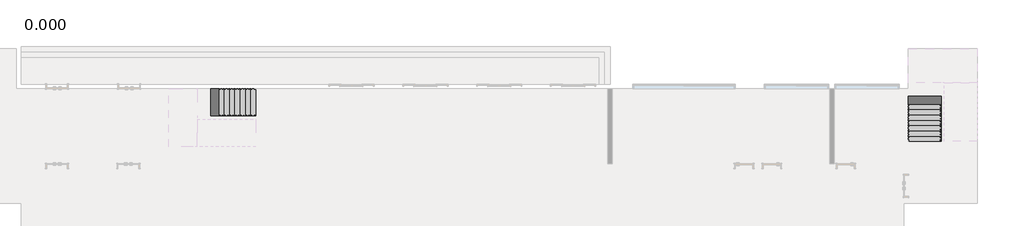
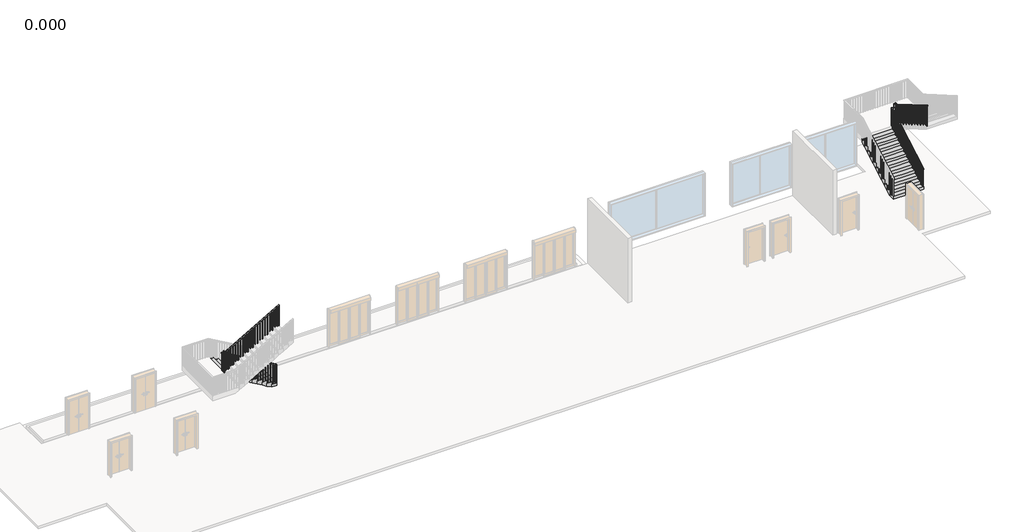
# One storey, part 3 of 4: 2 railings, 2 stair flights.
"""IFC4 building model written with IfcOpenShell, lengths in millimetres."""

from ifc_helpers import new_model, si_unit, frame, origin, place, context, project, spatial, polyline, outline, extrude, faceted_brep, element, save

model = new_model("IFC4")

# Units and contexts
model_context = context("Model", 3, world=origin())
ifc_project = project(units=[si_unit("LENGTHUNIT", "METRE", prefix="MILLI")], contexts=[model_context])

# Site, building, storey
site = spatial("IfcSite", under=ifc_project)
building = spatial("IfcBuilding", under=site)
storey = spatial("IfcBuildingStorey", under=building, Name="0.000", Elevation=0.0)

# Railings
placement = place(None, origin())
element("IfcRailing", 1, ObjectType="1100mm", at=placement, inside=storey, context=model_context, shape_type="SolidModel", body=[
    faceted_brep([(8832.9890344, 3957.0095817, 1262.5), (8832.9890344, 3957.0095817, 1204.6896546), (8832.9890344, 4007.0095817, 1204.6896546), (8832.9890344, 4007.0095817, 1262.5), (5827.5890344, 3957.0095817, 3006.7053571), (5777.5890344, 3957.0095817, 2977.9128689), (5777.5890344, 4007.0095817, 2977.9128689), (5827.5890344, 4007.0095817, 3006.7053571), (5827.5890344, 3957.0095817, 3050.0), (5777.5890344, 3957.0095817, 3000.0), (5777.5890344, 4007.0095817, 3000.0), (5827.5890344, 4007.0095817, 3050.0), (5752.5890344, 3957.0095817, 3050.0), (5752.5890344, 3957.0095817, 3000.0), (5702.5890344, 4007.0095817, 3000.0), (5702.5890344, 4007.0095817, 3050.0), (5752.5890344, 3882.0095817, 3050.0), (5752.5890344, 3882.0095817, 3000.0), (5702.5890344, 3882.0095817, 3000.0), (5702.5890344, 3882.0095817, 3050.0), (5752.5890344, 3851.2095817, 3050.0), (5752.5890344, 3801.2095817, 3000.0), (5702.5890344, 3801.2095817, 3000.0), (5702.5890344, 3851.2095817, 3050.0), (5752.5890344, 3851.2095817, 3255.7946429), (5752.5890344, 3801.2095817, 3205.7946429), (5702.5890344, 3801.2095817, 3205.7946429), (5702.5890344, 3851.2095817, 3255.7946429), (5752.5890344, 3776.2095817, 3255.7946429), (5752.5890344, 3776.2095817, 3205.7946429), (5702.5890344, 3726.2095817, 3205.7946429), (5702.5890344, 3726.2095817, 3255.7946429), (5827.5890344, 3776.2095817, 3255.7946429), (5841.0468602, 3776.2095817, 3205.7946429), (5841.0468602, 3726.2095817, 3205.7946429), (5827.5890344, 3726.2095817, 3255.7946429), (8832.9890344, 3776.2095817, 5000.0), (8832.9890344, 3726.2095817, 5000.0), (8832.9890344, 3726.2095817, 4942.1896546), (8832.9890344, 3776.2095817, 4942.1896546)], [[[0, 1, 2, 3]], [[1, 0, 4, 5]], [[2, 1, 5, 6]], [[3, 2, 6, 7]], [[0, 3, 7, 4]], [[5, 4, 8, 9]], [[6, 5, 9, 10]], [[7, 6, 10, 11]], [[4, 7, 11, 8]], [[9, 8, 12, 13]], [[10, 9, 13, 14]], [[11, 10, 14, 15]], [[8, 11, 15, 12]], [[13, 12, 16, 17]], [[14, 13, 17, 18]], [[15, 14, 18, 19]], [[12, 15, 19, 16]], [[17, 16, 20, 21]], [[18, 17, 21, 22]], [[19, 18, 22, 23]], [[16, 19, 23, 20]], [[21, 20, 24, 25]], [[22, 21, 25, 26]], [[23, 22, 26, 27]], [[20, 23, 27, 24]], [[25, 24, 28, 29]], [[26, 25, 29, 30]], [[27, 26, 30, 31]], [[24, 27, 31, 28]], [[29, 28, 32, 33]], [[30, 29, 33, 34]], [[31, 30, 34, 35]], [[28, 31, 35, 32]], [[36, 37, 38, 39]], [[33, 32, 36, 39]], [[34, 33, 39, 38]], [[35, 34, 38, 37]], [[32, 35, 37, 36]]]),
    extrude(outline(polyline([(3737.5, 8725.0890344), (3737.5, 8750.0890344), (4894.0780475, 8750.0890344), (4879.5691189, 8725.0890344), (3737.5, 8725.0890344)])), frame((0.0, 3738.7095817, 0.0), z_axis=(0.0, 1.0, 0.0), x_axis=(0.0, 0.0, 1.0)), (0.0, 0.0, 1.0), 25.0),
    extrude(outline(polyline([(3737.5, 8585.0890344), (3737.5, 8610.0890344), (4812.8280475, 8610.0890344), (4798.3191189, 8585.0890344), (3737.5, 8585.0890344)])), frame((0.0, 3738.7095817, 0.0), z_axis=(0.0, 1.0, 0.0), x_axis=(0.0, 0.0, 1.0)), (0.0, 0.0, 1.0), 25.0),
    extrude(outline(polyline([(3575.0, 8445.0890344), (3575.0, 8470.0890344), (4731.5780475, 8470.0890344), (4717.0691189, 8445.0890344), (3575.0, 8445.0890344)])), frame((0.0, 3738.7095817, 0.0), z_axis=(0.0, 1.0, 0.0), x_axis=(0.0, 0.0, 1.0)), (0.0, 0.0, 1.0), 25.0),
    extrude(outline(polyline([(3575.0, 8305.0890344), (3575.0, 8330.0890344), (4650.3280475, 8330.0890344), (4635.8191189, 8305.0890344), (3575.0, 8305.0890344)])), frame((0.0, 3738.7095817, 0.0), z_axis=(0.0, 1.0, 0.0), x_axis=(0.0, 0.0, 1.0)), (0.0, 0.0, 1.0), 25.0),
    extrude(outline(polyline([(3412.5, 8165.0890344), (3412.5, 8190.0890344), (4569.0780475, 8190.0890344), (4554.5691189, 8165.0890344), (3412.5, 8165.0890344)])), frame((0.0, 3738.7095817, 0.0), z_axis=(0.0, 1.0, 0.0), x_axis=(0.0, 0.0, 1.0)), (0.0, 0.0, 1.0), 25.0),
    extrude(outline(polyline([(3412.5, 8025.0890344), (3412.5, 8050.0890344), (4487.8280475, 8050.0890344), (4473.3191189, 8025.0890344), (3412.5, 8025.0890344)])), frame((0.0, 3738.7095817, 0.0), z_axis=(0.0, 1.0, 0.0), x_axis=(0.0, 0.0, 1.0)), (0.0, 0.0, 1.0), 25.0),
    extrude(outline(polyline([(3250.0, 7885.0890344), (3250.0, 7910.0890344), (4406.5780475, 7910.0890344), (4392.0691189, 7885.0890344), (3250.0, 7885.0890344)])), frame((0.0, 3738.7095817, 0.0), z_axis=(0.0, 1.0, 0.0), x_axis=(0.0, 0.0, 1.0)), (0.0, 0.0, 1.0), 25.0),
    extrude(outline(polyline([(3250.0, 7745.0890344), (3250.0, 7770.0890344), (4325.3280475, 7770.0890344), (4310.8191189, 7745.0890344), (3250.0, 7745.0890344)])), frame((0.0, 3738.7095817, 0.0), z_axis=(0.0, 1.0, 0.0), x_axis=(0.0, 0.0, 1.0)), (0.0, 0.0, 1.0), 25.0),
    extrude(outline(polyline([(3087.5, 7605.0890344), (3087.5, 7630.0890344), (4244.0780475, 7630.0890344), (4229.5691189, 7605.0890344), (3087.5, 7605.0890344)])), frame((0.0, 3738.7095817, 0.0), z_axis=(0.0, 1.0, 0.0), x_axis=(0.0, 0.0, 1.0)), (0.0, 0.0, 1.0), 25.0),
    extrude(outline(polyline([(3087.5, 7465.0890344), (3087.5, 7490.0890344), (4162.8280475, 7490.0890344), (4148.3191189, 7465.0890344), (3087.5, 7465.0890344)])), frame((0.0, 3738.7095817, 0.0), z_axis=(0.0, 1.0, 0.0), x_axis=(0.0, 0.0, 1.0)), (0.0, 0.0, 1.0), 25.0),
    extrude(outline(polyline([(2925.0, 7325.0890344), (2925.0, 7350.0890344), (4081.5780475, 7350.0890344), (4067.0691189, 7325.0890344), (2925.0, 7325.0890344)])), frame((0.0, 3738.7095817, 0.0), z_axis=(0.0, 1.0, 0.0), x_axis=(0.0, 0.0, 1.0)), (0.0, 0.0, 1.0), 25.0),
    extrude(outline(polyline([(2925.0, 7185.0890344), (2925.0, 7210.0890344), (4000.3280475, 7210.0890344), (3985.8191189, 7185.0890344), (2925.0, 7185.0890344)])), frame((0.0, 3738.7095817, 0.0), z_axis=(0.0, 1.0, 0.0), x_axis=(0.0, 0.0, 1.0)), (0.0, 0.0, 1.0), 25.0),
    extrude(outline(polyline([(2762.5, 7045.0890344), (2762.5, 7070.0890344), (3919.0780475, 7070.0890344), (3904.5691189, 7045.0890344), (2762.5, 7045.0890344)])), frame((0.0, 3738.7095817, 0.0), z_axis=(0.0, 1.0, 0.0), x_axis=(0.0, 0.0, 1.0)), (0.0, 0.0, 1.0), 25.0),
    extrude(outline(polyline([(2762.5, 6905.0890344), (2762.5, 6930.0890344), (3837.8280475, 6930.0890344), (3823.3191189, 6905.0890344), (2762.5, 6905.0890344)])), frame((0.0, 3738.7095817, 0.0), z_axis=(0.0, 1.0, 0.0), x_axis=(0.0, 0.0, 1.0)), (0.0, 0.0, 1.0), 25.0),
    extrude(outline(polyline([(2600.0, 6765.0890344), (2600.0, 6790.0890344), (3756.5780475, 6790.0890344), (3742.0691189, 6765.0890344), (2600.0, 6765.0890344)])), frame((0.0, 3738.7095817, 0.0), z_axis=(0.0, 1.0, 0.0), x_axis=(0.0, 0.0, 1.0)), (0.0, 0.0, 1.0), 25.0),
    extrude(outline(polyline([(2600.0, 6625.0890344), (2600.0, 6650.0890344), (3675.3280475, 6650.0890344), (3660.8191189, 6625.0890344), (2600.0, 6625.0890344)])), frame((0.0, 3738.7095817, 0.0), z_axis=(0.0, 1.0, 0.0), x_axis=(0.0, 0.0, 1.0)), (0.0, 0.0, 1.0), 25.0),
    extrude(outline(polyline([(2437.5, 6485.0890344), (2437.5, 6510.0890344), (3594.0780475, 6510.0890344), (3579.5691189, 6485.0890344), (2437.5, 6485.0890344)])), frame((0.0, 3738.7095817, 0.0), z_axis=(0.0, 1.0, 0.0), x_axis=(0.0, 0.0, 1.0)), (0.0, 0.0, 1.0), 25.0),
    extrude(outline(polyline([(2437.5, 6345.0890344), (2437.5, 6370.0890344), (3512.8280475, 6370.0890344), (3498.3191189, 6345.0890344), (2437.5, 6345.0890344)])), frame((0.0, 3738.7095817, 0.0), z_axis=(0.0, 1.0, 0.0), x_axis=(0.0, 0.0, 1.0)), (0.0, 0.0, 1.0), 25.0),
    extrude(outline(polyline([(2275.0, 6205.0890344), (2275.0, 6230.0890344), (3431.5780475, 6230.0890344), (3417.0691189, 6205.0890344), (2275.0, 6205.0890344)])), frame((0.0, 3738.7095817, 0.0), z_axis=(0.0, 1.0, 0.0), x_axis=(0.0, 0.0, 1.0)), (0.0, 0.0, 1.0), 25.0),
    extrude(outline(polyline([(2275.0, 6065.0890344), (2275.0, 6090.0890344), (3350.3280475, 6090.0890344), (3335.8191189, 6065.0890344), (2275.0, 6065.0890344)])), frame((0.0, 3738.7095817, 0.0), z_axis=(0.0, 1.0, 0.0), x_axis=(0.0, 0.0, 1.0)), (0.0, 0.0, 1.0), 25.0),
    extrude(outline(polyline([(2112.5, 5925.0890344), (2112.5, 5950.0890344), (3269.0780475, 5950.0890344), (3254.5691189, 5925.0890344), (2112.5, 5925.0890344)])), frame((0.0, 3738.7095817, 0.0), z_axis=(0.0, 1.0, 0.0), x_axis=(0.0, 0.0, 1.0)), (0.0, 0.0, 1.0), 25.0),
    extrude(outline(polyline([(5785.0890344, 3763.7095817), (5810.0890344, 3763.7095817), (5810.0890344, 3738.7095817), (5785.0890344, 3738.7095817), (5785.0890344, 3763.7095817)])), frame((0.0, 0.0, 2112.5), z_axis=(0.0, 0.0, 1.0), x_axis=(1.0, 0.0, 0.0)), (0.0, 0.0, 1.0), 1093.2946429),
    extrude(outline(polyline([(5740.0890344, 3784.5095817), (5740.0890344, 3759.5095817), (5715.0890344, 3759.5095817), (5715.0890344, 3784.5095817), (5740.0890344, 3784.5095817)])), frame((0.0, 0.0, 1950.0), z_axis=(0.0, 0.0, 1.0), x_axis=(1.0, 0.0, 0.0)), (0.0, 0.0, 1.0), 1255.7946429),
    extrude(outline(polyline([(5740.0890344, 3924.5095817), (5740.0890344, 3899.5095817), (5715.0890344, 3899.5095817), (5715.0890344, 3924.5095817), (5740.0890344, 3924.5095817)])), frame((0.0, 0.0, 1950.0), z_axis=(0.0, 0.0, 1.0), x_axis=(1.0, 0.0, 0.0)), (0.0, 0.0, 1.0), 1050.0),
    extrude(outline(polyline([(5835.4890344, 3969.5095817), (5810.4890344, 3969.5095817), (5810.4890344, 3994.5095817), (5835.4890344, 3994.5095817), (5835.4890344, 3969.5095817)])), frame((0.0, 0.0, 1787.5), z_axis=(0.0, 0.0, 1.0), x_axis=(1.0, 0.0, 0.0)), (0.0, 0.0, 1.0), 1212.5),
    extrude(outline(polyline([(2863.0601903, 5975.4890344), (2877.5691189, 5950.4890344), (1787.5, 5950.4890344), (1787.5, 5975.4890344), (2863.0601903, 5975.4890344)])), frame((0.0, 3969.5095817, 0.0), z_axis=(0.0, 1.0, 0.0), x_axis=(0.0, 0.0, 1.0)), (0.0, 0.0, 1.0), 25.0),
    extrude(outline(polyline([(2781.8101903, 6115.4890344), (2796.3191189, 6090.4890344), (1625.0, 6090.4890344), (1625.0, 6115.4890344), (2781.8101903, 6115.4890344)])), frame((0.0, 3969.5095817, 0.0), z_axis=(0.0, 1.0, 0.0), x_axis=(0.0, 0.0, 1.0)), (0.0, 0.0, 1.0), 25.0),
    extrude(outline(polyline([(2700.5601903, 6255.4890344), (2715.0691189, 6230.4890344), (1625.0, 6230.4890344), (1625.0, 6255.4890344), (2700.5601903, 6255.4890344)])), frame((0.0, 3969.5095817, 0.0), z_axis=(0.0, 1.0, 0.0), x_axis=(0.0, 0.0, 1.0)), (0.0, 0.0, 1.0), 25.0),
    extrude(outline(polyline([(2619.3101903, 6395.4890344), (2633.8191189, 6370.4890344), (1462.5, 6370.4890344), (1462.5, 6395.4890344), (2619.3101903, 6395.4890344)])), frame((0.0, 3969.5095817, 0.0), z_axis=(0.0, 1.0, 0.0), x_axis=(0.0, 0.0, 1.0)), (0.0, 0.0, 1.0), 25.0),
    extrude(outline(polyline([(2538.0601903, 6535.4890344), (2552.5691189, 6510.4890344), (1462.5, 6510.4890344), (1462.5, 6535.4890344), (2538.0601903, 6535.4890344)])), frame((0.0, 3969.5095817, 0.0), z_axis=(0.0, 1.0, 0.0), x_axis=(0.0, 0.0, 1.0)), (0.0, 0.0, 1.0), 25.0),
    extrude(outline(polyline([(2456.8101903, 6675.4890344), (2471.3191189, 6650.4890344), (1300.0, 6650.4890344), (1300.0, 6675.4890344), (2456.8101903, 6675.4890344)])), frame((0.0, 3969.5095817, 0.0), z_axis=(0.0, 1.0, 0.0), x_axis=(0.0, 0.0, 1.0)), (0.0, 0.0, 1.0), 25.0),
    extrude(outline(polyline([(2375.5601903, 6815.4890344), (2390.0691189, 6790.4890344), (1300.0, 6790.4890344), (1300.0, 6815.4890344), (2375.5601903, 6815.4890344)])), frame((0.0, 3969.5095817, 0.0), z_axis=(0.0, 1.0, 0.0), x_axis=(0.0, 0.0, 1.0)), (0.0, 0.0, 1.0), 25.0),
    extrude(outline(polyline([(2294.3101903, 6955.4890344), (2308.8191189, 6930.4890344), (1137.5, 6930.4890344), (1137.5, 6955.4890344), (2294.3101903, 6955.4890344)])), frame((0.0, 3969.5095817, 0.0), z_axis=(0.0, 1.0, 0.0), x_axis=(0.0, 0.0, 1.0)), (0.0, 0.0, 1.0), 25.0),
    extrude(outline(polyline([(2213.0601903, 7095.4890344), (2227.5691189, 7070.4890344), (1137.5, 7070.4890344), (1137.5, 7095.4890344), (2213.0601903, 7095.4890344)])), frame((0.0, 3969.5095817, 0.0), z_axis=(0.0, 1.0, 0.0), x_axis=(0.0, 0.0, 1.0)), (0.0, 0.0, 1.0), 25.0),
    extrude(outline(polyline([(2131.8101903, 7235.4890344), (2146.3191189, 7210.4890344), (975.0, 7210.4890344), (975.0, 7235.4890344), (2131.8101903, 7235.4890344)])), frame((0.0, 3969.5095817, 0.0), z_axis=(0.0, 1.0, 0.0), x_axis=(0.0, 0.0, 1.0)), (0.0, 0.0, 1.0), 25.0),
    extrude(outline(polyline([(2050.5601903, 7375.4890344), (2065.0691189, 7350.4890344), (975.0, 7350.4890344), (975.0, 7375.4890344), (2050.5601903, 7375.4890344)])), frame((0.0, 3969.5095817, 0.0), z_axis=(0.0, 1.0, 0.0), x_axis=(0.0, 0.0, 1.0)), (0.0, 0.0, 1.0), 25.0),
    extrude(outline(polyline([(1969.3101903, 7515.4890344), (1983.8191189, 7490.4890344), (812.5, 7490.4890344), (812.5, 7515.4890344), (1969.3101903, 7515.4890344)])), frame((0.0, 3969.5095817, 0.0), z_axis=(0.0, 1.0, 0.0), x_axis=(0.0, 0.0, 1.0)), (0.0, 0.0, 1.0), 25.0),
    extrude(outline(polyline([(1888.0601903, 7655.4890344), (1902.5691189, 7630.4890344), (812.5, 7630.4890344), (812.5, 7655.4890344), (1888.0601903, 7655.4890344)])), frame((0.0, 3969.5095817, 0.0), z_axis=(0.0, 1.0, 0.0), x_axis=(0.0, 0.0, 1.0)), (0.0, 0.0, 1.0), 25.0),
    extrude(outline(polyline([(1806.8101903, 7795.4890344), (1821.3191189, 7770.4890344), (650.0, 7770.4890344), (650.0, 7795.4890344), (1806.8101903, 7795.4890344)])), frame((0.0, 3969.5095817, 0.0), z_axis=(0.0, 1.0, 0.0), x_axis=(0.0, 0.0, 1.0)), (0.0, 0.0, 1.0), 25.0),
    extrude(outline(polyline([(1725.5601903, 7935.4890344), (1740.0691189, 7910.4890344), (650.0, 7910.4890344), (650.0, 7935.4890344), (1725.5601903, 7935.4890344)])), frame((0.0, 3969.5095817, 0.0), z_axis=(0.0, 1.0, 0.0), x_axis=(0.0, 0.0, 1.0)), (0.0, 0.0, 1.0), 25.0),
    extrude(outline(polyline([(1644.3101903, 8075.4890344), (1658.8191189, 8050.4890344), (487.5, 8050.4890344), (487.5, 8075.4890344), (1644.3101903, 8075.4890344)])), frame((0.0, 3969.5095817, 0.0), z_axis=(0.0, 1.0, 0.0), x_axis=(0.0, 0.0, 1.0)), (0.0, 0.0, 1.0), 25.0),
    extrude(outline(polyline([(1563.0601903, 8215.4890344), (1577.5691189, 8190.4890344), (487.5, 8190.4890344), (487.5, 8215.4890344), (1563.0601903, 8215.4890344)])), frame((0.0, 3969.5095817, 0.0), z_axis=(0.0, 1.0, 0.0), x_axis=(0.0, 0.0, 1.0)), (0.0, 0.0, 1.0), 25.0),
    extrude(outline(polyline([(1481.8101903, 8355.4890344), (1496.3191189, 8330.4890344), (325.0, 8330.4890344), (325.0, 8355.4890344), (1481.8101903, 8355.4890344)])), frame((0.0, 3969.5095817, 0.0), z_axis=(0.0, 1.0, 0.0), x_axis=(0.0, 0.0, 1.0)), (0.0, 0.0, 1.0), 25.0),
    extrude(outline(polyline([(1400.5601903, 8495.4890344), (1415.0691189, 8470.4890344), (325.0, 8470.4890344), (325.0, 8495.4890344), (1400.5601903, 8495.4890344)])), frame((0.0, 3969.5095817, 0.0), z_axis=(0.0, 1.0, 0.0), x_axis=(0.0, 0.0, 1.0)), (0.0, 0.0, 1.0), 25.0),
    extrude(outline(polyline([(1319.3101903, 8635.4890344), (1333.8191189, 8610.4890344), (162.5, 8610.4890344), (162.5, 8635.4890344), (1319.3101903, 8635.4890344)])), frame((0.0, 3969.5095817, 0.0), z_axis=(0.0, 1.0, 0.0), x_axis=(0.0, 0.0, 1.0)), (0.0, 0.0, 1.0), 25.0),
    extrude(outline(polyline([(1238.0601903, 8775.4890344), (1252.5691189, 8750.4890344), (162.5, 8750.4890344), (162.5, 8775.4890344), (1238.0601903, 8775.4890344)])), frame((0.0, 3969.5095817, 0.0), z_axis=(0.0, 1.0, 0.0), x_axis=(0.0, 0.0, 1.0)), (0.0, 0.0, 1.0), 25.0),
    extrude(outline(polyline([(5740.0890344, 3763.7095817), (5740.0890344, 3738.7095817), (5715.0890344, 3738.7095817), (5715.0890344, 3763.7095817), (5740.0890344, 3763.7095817)])), frame((0.0, 0.0, 1950.0), z_axis=(0.0, 0.0, 1.0), x_axis=(1.0, 0.0, 0.0)), (0.0, 0.0, 1.0), 1255.7946429),
    extrude(outline(polyline([(5740.0890344, 3969.5095817), (5715.0890344, 3969.5095817), (5715.0890344, 3994.5095817), (5740.0890344, 3994.5095817), (5740.0890344, 3969.5095817)])), frame((0.0, 0.0, 1950.0), z_axis=(0.0, 0.0, 1.0), x_axis=(1.0, 0.0, 0.0)), (0.0, 0.0, 1.0), 1050.0),
    extrude(outline(polyline([(3737.5, 8807.9890344), (3737.5, 8832.9890344), (4942.1896546, 8832.9890344), (4927.680726, 8807.9890344), (3737.5, 8807.9890344)])), frame((0.0, 3738.7095817, 0.0), z_axis=(0.0, 1.0, 0.0), x_axis=(0.0, 0.0, 1.0)), (0.0, 0.0, 1.0), 25.0),
    extrude(outline(polyline([(1204.6896546, 8832.9890344), (1219.1985832, 8807.9890344), (162.5, 8807.9890344), (162.5, 8832.9890344), (1204.6896546, 8832.9890344)])), frame((0.0, 3969.5095817, 0.0), z_axis=(0.0, 1.0, 0.0), x_axis=(0.0, 0.0, 1.0)), (0.0, 0.0, 1.0), 25.0),
])
element("IfcRailing", 2, ObjectType="1100mm", at=placement, inside=storey, context=model_context, shape_type="SolidModel", body=[
    faceted_brep([(44942.5890344, 2616.6095817, 1262.5), (44942.5890344, 2616.6095817, 1204.6896546), (44992.5890344, 2616.6095817, 1204.6896546), (44992.5890344, 2616.6095817, 1262.5), (44942.5890344, 5622.0095817, 3006.7053571), (44942.5890344, 5672.0095817, 2977.9128689), (44992.5890344, 5672.0095817, 2977.9128689), (44992.5890344, 5622.0095817, 3006.7053571), (44942.5890344, 5622.0095817, 3050.0), (44942.5890344, 5672.0095817, 3000.0), (44992.5890344, 5672.0095817, 3000.0), (44992.5890344, 5622.0095817, 3050.0), (44942.5890344, 5747.0095817, 3050.0), (44942.5890344, 5747.0095817, 3000.0), (44992.5890344, 5697.0095817, 3000.0), (44992.5890344, 5697.0095817, 3050.0), (45067.5890344, 5747.0095817, 3050.0), (45067.5890344, 5747.0095817, 3000.0), (45067.5890344, 5697.0095817, 3000.0), (45067.5890344, 5697.0095817, 3050.0), (45098.3890344, 5747.0095817, 3050.0), (45148.3890344, 5747.0095817, 3000.0), (45148.3890344, 5697.0095817, 3000.0), (45098.3890344, 5697.0095817, 3050.0), (45098.3890344, 5747.0095817, 3255.7946429), (45148.3890344, 5747.0095817, 3205.7946429), (45148.3890344, 5697.0095817, 3205.7946429), (45098.3890344, 5697.0095817, 3255.7946429), (45223.3890344, 5747.0095817, 3255.7946429), (45223.3890344, 5747.0095817, 3205.7946429), (45173.3890344, 5697.0095817, 3205.7946429), (45173.3890344, 5697.0095817, 3255.7946429), (45223.3890344, 5622.0095817, 3255.7946429), (45223.3890344, 5608.5517559, 3205.7946429), (45173.3890344, 5608.5517559, 3205.7946429), (45173.3890344, 5622.0095817, 3255.7946429), (45223.3890344, 2616.6095817, 5000.0), (45173.3890344, 2616.6095817, 5000.0), (45173.3890344, 2616.6095817, 4942.1896546), (45223.3890344, 2616.6095817, 4942.1896546)], [[[0, 1, 2, 3]], [[1, 0, 4, 5]], [[2, 1, 5, 6]], [[3, 2, 6, 7]], [[0, 3, 7, 4]], [[5, 4, 8, 9]], [[6, 5, 9, 10]], [[7, 6, 10, 11]], [[4, 7, 11, 8]], [[9, 8, 12, 13]], [[10, 9, 13, 14]], [[11, 10, 14, 15]], [[8, 11, 15, 12]], [[13, 12, 16, 17]], [[14, 13, 17, 18]], [[15, 14, 18, 19]], [[12, 15, 19, 16]], [[17, 16, 20, 21]], [[18, 17, 21, 22]], [[19, 18, 22, 23]], [[16, 19, 23, 20]], [[21, 20, 24, 25]], [[22, 21, 25, 26]], [[23, 22, 26, 27]], [[20, 23, 27, 24]], [[25, 24, 28, 29]], [[26, 25, 29, 30]], [[27, 26, 30, 31]], [[24, 27, 31, 28]], [[29, 28, 32, 33]], [[30, 29, 33, 34]], [[31, 30, 34, 35]], [[28, 31, 35, 32]], [[36, 37, 38, 39]], [[33, 32, 36, 39]], [[34, 33, 39, 38]], [[35, 34, 38, 37]], [[32, 35, 37, 36]]]),
    extrude(outline(polyline([(2724.5095817, 4879.5691189), (2724.5095817, 3737.5), (2699.5095817, 3737.5), (2699.5095817, 4894.0780475), (2724.5095817, 4879.5691189)])), frame((45185.8890344, 0.0, 0.0), z_axis=(1.0, 0.0, 0.0), x_axis=(0.0, 1.0, 0.0)), (0.0, 0.0, 1.0), 25.0),
    extrude(outline(polyline([(2864.5095817, 4798.3191189), (2864.5095817, 3737.5), (2839.5095817, 3737.5), (2839.5095817, 4812.8280475), (2864.5095817, 4798.3191189)])), frame((45185.8890344, 0.0, 0.0), z_axis=(1.0, 0.0, 0.0), x_axis=(0.0, 1.0, 0.0)), (0.0, 0.0, 1.0), 25.0),
    extrude(outline(polyline([(3004.5095817, 4717.0691189), (3004.5095817, 3575.0), (2979.5095817, 3575.0), (2979.5095817, 4731.5780475), (3004.5095817, 4717.0691189)])), frame((45185.8890344, 0.0, 0.0), z_axis=(1.0, 0.0, 0.0), x_axis=(0.0, 1.0, 0.0)), (0.0, 0.0, 1.0), 25.0),
    extrude(outline(polyline([(3144.5095817, 4635.8191189), (3144.5095817, 3575.0), (3119.5095817, 3575.0), (3119.5095817, 4650.3280475), (3144.5095817, 4635.8191189)])), frame((45185.8890344, 0.0, 0.0), z_axis=(1.0, 0.0, 0.0), x_axis=(0.0, 1.0, 0.0)), (0.0, 0.0, 1.0), 25.0),
    extrude(outline(polyline([(3284.5095817, 4554.5691189), (3284.5095817, 3412.5), (3259.5095817, 3412.5), (3259.5095817, 4569.0780475), (3284.5095817, 4554.5691189)])), frame((45185.8890344, 0.0, 0.0), z_axis=(1.0, 0.0, 0.0), x_axis=(0.0, 1.0, 0.0)), (0.0, 0.0, 1.0), 25.0),
    extrude(outline(polyline([(3424.5095817, 4473.3191189), (3424.5095817, 3412.5), (3399.5095817, 3412.5), (3399.5095817, 4487.8280475), (3424.5095817, 4473.3191189)])), frame((45185.8890344, 0.0, 0.0), z_axis=(1.0, 0.0, 0.0), x_axis=(0.0, 1.0, 0.0)), (0.0, 0.0, 1.0), 25.0),
    extrude(outline(polyline([(3564.5095817, 4392.0691189), (3564.5095817, 3250.0), (3539.5095817, 3250.0), (3539.5095817, 4406.5780475), (3564.5095817, 4392.0691189)])), frame((45185.8890344, 0.0, 0.0), z_axis=(1.0, 0.0, 0.0), x_axis=(0.0, 1.0, 0.0)), (0.0, 0.0, 1.0), 25.0),
    extrude(outline(polyline([(3704.5095817, 4310.8191189), (3704.5095817, 3250.0), (3679.5095817, 3250.0), (3679.5095817, 4325.3280475), (3704.5095817, 4310.8191189)])), frame((45185.8890344, 0.0, 0.0), z_axis=(1.0, 0.0, 0.0), x_axis=(0.0, 1.0, 0.0)), (0.0, 0.0, 1.0), 25.0),
    extrude(outline(polyline([(3844.5095817, 4229.5691189), (3844.5095817, 3087.5), (3819.5095817, 3087.5), (3819.5095817, 4244.0780475), (3844.5095817, 4229.5691189)])), frame((45185.8890344, 0.0, 0.0), z_axis=(1.0, 0.0, 0.0), x_axis=(0.0, 1.0, 0.0)), (0.0, 0.0, 1.0), 25.0),
    extrude(outline(polyline([(3984.5095817, 4148.3191189), (3984.5095817, 3087.5), (3959.5095817, 3087.5), (3959.5095817, 4162.8280475), (3984.5095817, 4148.3191189)])), frame((45185.8890344, 0.0, 0.0), z_axis=(1.0, 0.0, 0.0), x_axis=(0.0, 1.0, 0.0)), (0.0, 0.0, 1.0), 25.0),
    extrude(outline(polyline([(4124.5095817, 4067.0691189), (4124.5095817, 2925.0), (4099.5095817, 2925.0), (4099.5095817, 4081.5780475), (4124.5095817, 4067.0691189)])), frame((45185.8890344, 0.0, 0.0), z_axis=(1.0, 0.0, 0.0), x_axis=(0.0, 1.0, 0.0)), (0.0, 0.0, 1.0), 25.0),
    extrude(outline(polyline([(4264.5095817, 3985.8191189), (4264.5095817, 2925.0), (4239.5095817, 2925.0), (4239.5095817, 4000.3280475), (4264.5095817, 3985.8191189)])), frame((45185.8890344, 0.0, 0.0), z_axis=(1.0, 0.0, 0.0), x_axis=(0.0, 1.0, 0.0)), (0.0, 0.0, 1.0), 25.0),
    extrude(outline(polyline([(4404.5095817, 3904.5691189), (4404.5095817, 2762.5), (4379.5095817, 2762.5), (4379.5095817, 3919.0780475), (4404.5095817, 3904.5691189)])), frame((45185.8890344, 0.0, 0.0), z_axis=(1.0, 0.0, 0.0), x_axis=(0.0, 1.0, 0.0)), (0.0, 0.0, 1.0), 25.0),
    extrude(outline(polyline([(4544.5095817, 3823.3191189), (4544.5095817, 2762.5), (4519.5095817, 2762.5), (4519.5095817, 3837.8280475), (4544.5095817, 3823.3191189)])), frame((45185.8890344, 0.0, 0.0), z_axis=(1.0, 0.0, 0.0), x_axis=(0.0, 1.0, 0.0)), (0.0, 0.0, 1.0), 25.0),
    extrude(outline(polyline([(4684.5095817, 3742.0691189), (4684.5095817, 2600.0), (4659.5095817, 2600.0), (4659.5095817, 3756.5780475), (4684.5095817, 3742.0691189)])), frame((45185.8890344, 0.0, 0.0), z_axis=(1.0, 0.0, 0.0), x_axis=(0.0, 1.0, 0.0)), (0.0, 0.0, 1.0), 25.0),
    extrude(outline(polyline([(4824.5095817, 3660.8191189), (4824.5095817, 2600.0), (4799.5095817, 2600.0), (4799.5095817, 3675.3280475), (4824.5095817, 3660.8191189)])), frame((45185.8890344, 0.0, 0.0), z_axis=(1.0, 0.0, 0.0), x_axis=(0.0, 1.0, 0.0)), (0.0, 0.0, 1.0), 25.0),
    extrude(outline(polyline([(4964.5095817, 3579.5691189), (4964.5095817, 2437.5), (4939.5095817, 2437.5), (4939.5095817, 3594.0780475), (4964.5095817, 3579.5691189)])), frame((45185.8890344, 0.0, 0.0), z_axis=(1.0, 0.0, 0.0), x_axis=(0.0, 1.0, 0.0)), (0.0, 0.0, 1.0), 25.0),
    extrude(outline(polyline([(5104.5095817, 3498.3191189), (5104.5095817, 2437.5), (5079.5095817, 2437.5), (5079.5095817, 3512.8280475), (5104.5095817, 3498.3191189)])), frame((45185.8890344, 0.0, 0.0), z_axis=(1.0, 0.0, 0.0), x_axis=(0.0, 1.0, 0.0)), (0.0, 0.0, 1.0), 25.0),
    extrude(outline(polyline([(5244.5095817, 3417.0691189), (5244.5095817, 2275.0), (5219.5095817, 2275.0), (5219.5095817, 3431.5780475), (5244.5095817, 3417.0691189)])), frame((45185.8890344, 0.0, 0.0), z_axis=(1.0, 0.0, 0.0), x_axis=(0.0, 1.0, 0.0)), (0.0, 0.0, 1.0), 25.0),
    extrude(outline(polyline([(5384.5095817, 3335.8191189), (5384.5095817, 2275.0), (5359.5095817, 2275.0), (5359.5095817, 3350.3280475), (5384.5095817, 3335.8191189)])), frame((45185.8890344, 0.0, 0.0), z_axis=(1.0, 0.0, 0.0), x_axis=(0.0, 1.0, 0.0)), (0.0, 0.0, 1.0), 25.0),
    extrude(outline(polyline([(5524.5095817, 3254.5691189), (5524.5095817, 2112.5), (5499.5095817, 2112.5), (5499.5095817, 3269.0780475), (5524.5095817, 3254.5691189)])), frame((45185.8890344, 0.0, 0.0), z_axis=(1.0, 0.0, 0.0), x_axis=(0.0, 1.0, 0.0)), (0.0, 0.0, 1.0), 25.0),
    extrude(outline(polyline([(45185.8890344, 5664.5095817), (45210.8890344, 5664.5095817), (45210.8890344, 5639.5095817), (45185.8890344, 5639.5095817), (45185.8890344, 5664.5095817)])), frame((0.0, 0.0, 2112.5), z_axis=(0.0, 0.0, 1.0), x_axis=(1.0, 0.0, 0.0)), (0.0, 0.0, 1.0), 1093.2946429),
    extrude(outline(polyline([(45165.0890344, 5709.5095817), (45165.0890344, 5734.5095817), (45190.0890344, 5734.5095817), (45190.0890344, 5709.5095817), (45165.0890344, 5709.5095817)])), frame((0.0, 0.0, 1950.0), z_axis=(0.0, 0.0, 1.0), x_axis=(1.0, 0.0, 0.0)), (0.0, 0.0, 1.0), 1255.7946429),
    extrude(outline(polyline([(45025.0890344, 5709.5095817), (45025.0890344, 5734.5095817), (45050.0890344, 5734.5095817), (45050.0890344, 5709.5095817), (45025.0890344, 5709.5095817)])), frame((0.0, 0.0, 1950.0), z_axis=(0.0, 0.0, 1.0), x_axis=(1.0, 0.0, 0.0)), (0.0, 0.0, 1.0), 1050.0),
    extrude(outline(polyline([(44980.0890344, 5614.1095817), (44955.0890344, 5614.1095817), (44955.0890344, 5639.1095817), (44980.0890344, 5639.1095817), (44980.0890344, 5614.1095817)])), frame((0.0, 0.0, 1787.5), z_axis=(0.0, 0.0, 1.0), x_axis=(1.0, 0.0, 0.0)), (0.0, 0.0, 1.0), 1212.5),
    extrude(outline(polyline([(5474.1095817, 1787.5), (5474.1095817, 2863.0601903), (5499.1095817, 2877.5691189), (5499.1095817, 1787.5), (5474.1095817, 1787.5)])), frame((44955.0890344, 0.0, 0.0), z_axis=(1.0, 0.0, 0.0), x_axis=(0.0, 1.0, 0.0)), (0.0, 0.0, 1.0), 25.0),
    extrude(outline(polyline([(5334.1095817, 1625.0), (5334.1095817, 2781.8101903), (5359.1095817, 2796.3191189), (5359.1095817, 1625.0), (5334.1095817, 1625.0)])), frame((44955.0890344, 0.0, 0.0), z_axis=(1.0, 0.0, 0.0), x_axis=(0.0, 1.0, 0.0)), (0.0, 0.0, 1.0), 25.0),
    extrude(outline(polyline([(5194.1095817, 1625.0), (5194.1095817, 2700.5601903), (5219.1095817, 2715.0691189), (5219.1095817, 1625.0), (5194.1095817, 1625.0)])), frame((44955.0890344, 0.0, 0.0), z_axis=(1.0, 0.0, 0.0), x_axis=(0.0, 1.0, 0.0)), (0.0, 0.0, 1.0), 25.0),
    extrude(outline(polyline([(5054.1095817, 1462.5), (5054.1095817, 2619.3101903), (5079.1095817, 2633.8191189), (5079.1095817, 1462.5), (5054.1095817, 1462.5)])), frame((44955.0890344, 0.0, 0.0), z_axis=(1.0, 0.0, 0.0), x_axis=(0.0, 1.0, 0.0)), (0.0, 0.0, 1.0), 25.0),
    extrude(outline(polyline([(4914.1095817, 1462.5), (4914.1095817, 2538.0601903), (4939.1095817, 2552.5691189), (4939.1095817, 1462.5), (4914.1095817, 1462.5)])), frame((44955.0890344, 0.0, 0.0), z_axis=(1.0, 0.0, 0.0), x_axis=(0.0, 1.0, 0.0)), (0.0, 0.0, 1.0), 25.0),
    extrude(outline(polyline([(4774.1095817, 1300.0), (4774.1095817, 2456.8101903), (4799.1095817, 2471.3191189), (4799.1095817, 1300.0), (4774.1095817, 1300.0)])), frame((44955.0890344, 0.0, 0.0), z_axis=(1.0, 0.0, 0.0), x_axis=(0.0, 1.0, 0.0)), (0.0, 0.0, 1.0), 25.0),
    extrude(outline(polyline([(4634.1095817, 1300.0), (4634.1095817, 2375.5601903), (4659.1095817, 2390.0691189), (4659.1095817, 1300.0), (4634.1095817, 1300.0)])), frame((44955.0890344, 0.0, 0.0), z_axis=(1.0, 0.0, 0.0), x_axis=(0.0, 1.0, 0.0)), (0.0, 0.0, 1.0), 25.0),
    extrude(outline(polyline([(4494.1095817, 1137.5), (4494.1095817, 2294.3101903), (4519.1095817, 2308.8191189), (4519.1095817, 1137.5), (4494.1095817, 1137.5)])), frame((44955.0890344, 0.0, 0.0), z_axis=(1.0, 0.0, 0.0), x_axis=(0.0, 1.0, 0.0)), (0.0, 0.0, 1.0), 25.0),
    extrude(outline(polyline([(4354.1095817, 1137.5), (4354.1095817, 2213.0601903), (4379.1095817, 2227.5691189), (4379.1095817, 1137.5), (4354.1095817, 1137.5)])), frame((44955.0890344, 0.0, 0.0), z_axis=(1.0, 0.0, 0.0), x_axis=(0.0, 1.0, 0.0)), (0.0, 0.0, 1.0), 25.0),
    extrude(outline(polyline([(4214.1095817, 975.0), (4214.1095817, 2131.8101903), (4239.1095817, 2146.3191189), (4239.1095817, 975.0), (4214.1095817, 975.0)])), frame((44955.0890344, 0.0, 0.0), z_axis=(1.0, 0.0, 0.0), x_axis=(0.0, 1.0, 0.0)), (0.0, 0.0, 1.0), 25.0),
    extrude(outline(polyline([(4074.1095817, 975.0), (4074.1095817, 2050.5601903), (4099.1095817, 2065.0691189), (4099.1095817, 975.0), (4074.1095817, 975.0)])), frame((44955.0890344, 0.0, 0.0), z_axis=(1.0, 0.0, 0.0), x_axis=(0.0, 1.0, 0.0)), (0.0, 0.0, 1.0), 25.0),
    extrude(outline(polyline([(3934.1095817, 812.5), (3934.1095817, 1969.3101903), (3959.1095817, 1983.8191189), (3959.1095817, 812.5), (3934.1095817, 812.5)])), frame((44955.0890344, 0.0, 0.0), z_axis=(1.0, 0.0, 0.0), x_axis=(0.0, 1.0, 0.0)), (0.0, 0.0, 1.0), 25.0),
    extrude(outline(polyline([(3794.1095817, 812.5), (3794.1095817, 1888.0601903), (3819.1095817, 1902.5691189), (3819.1095817, 812.5), (3794.1095817, 812.5)])), frame((44955.0890344, 0.0, 0.0), z_axis=(1.0, 0.0, 0.0), x_axis=(0.0, 1.0, 0.0)), (0.0, 0.0, 1.0), 25.0),
    extrude(outline(polyline([(3654.1095817, 650.0), (3654.1095817, 1806.8101903), (3679.1095817, 1821.3191189), (3679.1095817, 650.0), (3654.1095817, 650.0)])), frame((44955.0890344, 0.0, 0.0), z_axis=(1.0, 0.0, 0.0), x_axis=(0.0, 1.0, 0.0)), (0.0, 0.0, 1.0), 25.0),
    extrude(outline(polyline([(3514.1095817, 650.0), (3514.1095817, 1725.5601903), (3539.1095817, 1740.0691189), (3539.1095817, 650.0), (3514.1095817, 650.0)])), frame((44955.0890344, 0.0, 0.0), z_axis=(1.0, 0.0, 0.0), x_axis=(0.0, 1.0, 0.0)), (0.0, 0.0, 1.0), 25.0),
    extrude(outline(polyline([(3374.1095817, 487.5), (3374.1095817, 1644.3101903), (3399.1095817, 1658.8191189), (3399.1095817, 487.5), (3374.1095817, 487.5)])), frame((44955.0890344, 0.0, 0.0), z_axis=(1.0, 0.0, 0.0), x_axis=(0.0, 1.0, 0.0)), (0.0, 0.0, 1.0), 25.0),
    extrude(outline(polyline([(3234.1095817, 487.5), (3234.1095817, 1563.0601903), (3259.1095817, 1577.5691189), (3259.1095817, 487.5), (3234.1095817, 487.5)])), frame((44955.0890344, 0.0, 0.0), z_axis=(1.0, 0.0, 0.0), x_axis=(0.0, 1.0, 0.0)), (0.0, 0.0, 1.0), 25.0),
    extrude(outline(polyline([(3094.1095817, 325.0), (3094.1095817, 1481.8101903), (3119.1095817, 1496.3191189), (3119.1095817, 325.0), (3094.1095817, 325.0)])), frame((44955.0890344, 0.0, 0.0), z_axis=(1.0, 0.0, 0.0), x_axis=(0.0, 1.0, 0.0)), (0.0, 0.0, 1.0), 25.0),
    extrude(outline(polyline([(2954.1095817, 325.0), (2954.1095817, 1400.5601903), (2979.1095817, 1415.0691189), (2979.1095817, 325.0), (2954.1095817, 325.0)])), frame((44955.0890344, 0.0, 0.0), z_axis=(1.0, 0.0, 0.0), x_axis=(0.0, 1.0, 0.0)), (0.0, 0.0, 1.0), 25.0),
    extrude(outline(polyline([(2814.1095817, 162.5), (2814.1095817, 1319.3101903), (2839.1095817, 1333.8191189), (2839.1095817, 162.5), (2814.1095817, 162.5)])), frame((44955.0890344, 0.0, 0.0), z_axis=(1.0, 0.0, 0.0), x_axis=(0.0, 1.0, 0.0)), (0.0, 0.0, 1.0), 25.0),
    extrude(outline(polyline([(2674.1095817, 162.5), (2674.1095817, 1238.0601903), (2699.1095817, 1252.5691189), (2699.1095817, 162.5), (2674.1095817, 162.5)])), frame((44955.0890344, 0.0, 0.0), z_axis=(1.0, 0.0, 0.0), x_axis=(0.0, 1.0, 0.0)), (0.0, 0.0, 1.0), 25.0),
    extrude(outline(polyline([(45185.8890344, 5709.5095817), (45185.8890344, 5734.5095817), (45210.8890344, 5734.5095817), (45210.8890344, 5709.5095817), (45185.8890344, 5709.5095817)])), frame((0.0, 0.0, 1950.0), z_axis=(0.0, 0.0, 1.0), x_axis=(1.0, 0.0, 0.0)), (0.0, 0.0, 1.0), 1255.7946429),
    extrude(outline(polyline([(44980.0890344, 5709.5095817), (44955.0890344, 5709.5095817), (44955.0890344, 5734.5095817), (44980.0890344, 5734.5095817), (44980.0890344, 5709.5095817)])), frame((0.0, 0.0, 1950.0), z_axis=(0.0, 0.0, 1.0), x_axis=(1.0, 0.0, 0.0)), (0.0, 0.0, 1.0), 1050.0),
    extrude(outline(polyline([(2641.6095817, 4927.680726), (2641.6095817, 3737.5), (2616.6095817, 3737.5), (2616.6095817, 4942.1896546), (2641.6095817, 4927.680726)])), frame((45185.8890344, 0.0, 0.0), z_axis=(1.0, 0.0, 0.0), x_axis=(0.0, 1.0, 0.0)), (0.0, 0.0, 1.0), 25.0),
    extrude(outline(polyline([(2616.6095817, 162.5), (2616.6095817, 1204.6896546), (2641.6095817, 1219.1985832), (2641.6095817, 162.5), (2616.6095817, 162.5)])), frame((44955.0890344, 0.0, 0.0), z_axis=(1.0, 0.0, 0.0), x_axis=(0.0, 1.0, 0.0)), (0.0, 0.0, 1.0), 25.0),
])

# Stair flights
element("IfcStairFlight", 3, ObjectType="150mm 结构深度", at=placement, inside=storey, context=model_context, shape_type="Brep", body=[
    faceted_brep([(8552.9890344, 3956.6095817, 162.5), (8832.9890344, 3956.6095817, 162.5), (8832.9890344, 5396.6095817, 162.5), (8552.9890344, 5396.6095817, 162.5), (8552.9890344, 3956.6095817, 0.0), (8832.9890344, 3956.6095817, 0.0), (8832.9890344, 5396.6095817, 0.0), (8552.9890344, 5396.6095817, 0.0), (8272.9890344, 3956.6095817, 325.0), (8552.9890344, 3956.6095817, 325.0), (8552.9890344, 5396.6095817, 325.0), (8272.9890344, 5396.6095817, 325.0), (8272.9890344, 3956.6095817, 151.5689639), (8534.1540182, 3956.6095817, 0.0), (8534.1540182, 5396.6095817, 0.0), (8272.9890344, 5396.6095817, 151.5689639), (7992.9890344, 3956.6095817, 487.5), (8272.9890344, 3956.6095817, 487.5), (8272.9890344, 5396.6095817, 487.5), (7992.9890344, 5396.6095817, 487.5), (7992.9890344, 3956.6095817, 314.0689639), (7992.9890344, 5396.6095817, 314.0689639), (7712.9890344, 3956.6095817, 650.0), (7992.9890344, 3956.6095817, 650.0), (7992.9890344, 5396.6095817, 650.0), (7712.9890344, 5396.6095817, 650.0), (7712.9890344, 3956.6095817, 476.5689639), (7712.9890344, 5396.6095817, 476.5689639), (7432.9890344, 3956.6095817, 812.5), (7712.9890344, 3956.6095817, 812.5), (7712.9890344, 5396.6095817, 812.5), (7432.9890344, 5396.6095817, 812.5), (7432.9890344, 3956.6095817, 639.0689639), (7432.9890344, 5396.6095817, 639.0689639), (7152.9890344, 3956.6095817, 975.0), (7432.9890344, 3956.6095817, 975.0), (7432.9890344, 5396.6095817, 975.0), (7152.9890344, 5396.6095817, 975.0), (7152.9890344, 3956.6095817, 801.5689639), (7152.9890344, 5396.6095817, 801.5689639), (6872.9890344, 3956.6095817, 1137.5), (7152.9890344, 3956.6095817, 1137.5), (7152.9890344, 5396.6095817, 1137.5), (6872.9890344, 5396.6095817, 1137.5), (6872.9890344, 3956.6095817, 964.0689639), (6872.9890344, 5396.6095817, 964.0689639), (6592.9890344, 3956.6095817, 1300.0), (6872.9890344, 3956.6095817, 1300.0), (6872.9890344, 5396.6095817, 1300.0), (6592.9890344, 5396.6095817, 1300.0), (6592.9890344, 3956.6095817, 1126.5689639), (6592.9890344, 5396.6095817, 1126.5689639), (6312.9890344, 3956.6095817, 1462.5), (6592.9890344, 3956.6095817, 1462.5), (6592.9890344, 5396.6095817, 1462.5), (6312.9890344, 5396.6095817, 1462.5), (6312.9890344, 3956.6095817, 1289.0689639), (6312.9890344, 5396.6095817, 1289.0689639), (6032.9890344, 3956.6095817, 1625.0), (6312.9890344, 3956.6095817, 1625.0), (6312.9890344, 5396.6095817, 1625.0), (6032.9890344, 5396.6095817, 1625.0), (6032.9890344, 3956.6095817, 1451.5689639), (6032.9890344, 5396.6095817, 1451.5689639), (5752.9890344, 3956.6095817, 1787.5), (6032.9890344, 3956.6095817, 1787.5), (6032.9890344, 5396.6095817, 1787.5), (5752.9890344, 5396.6095817, 1787.5), (5752.9890344, 3956.6095817, 1650.0), (5752.9890344, 3956.6095817, 1614.0689639), (5752.9890344, 5396.6095817, 1614.0689639)], [[[0, 1, 2, 3]], [[1, 0, 4, 5]], [[2, 1, 5, 6]], [[3, 2, 6, 7]], [[8, 9, 10, 11]], [[4, 0, 9, 8, 12, 13]], [[0, 3, 10, 9]], [[3, 7, 14, 15, 11, 10]], [[16, 17, 18, 19]], [[17, 16, 20, 12, 8]], [[8, 11, 18, 17]], [[19, 18, 11, 15, 21]], [[22, 23, 24, 25]], [[23, 22, 26, 20, 16]], [[16, 19, 24, 23]], [[25, 24, 19, 21, 27]], [[28, 29, 30, 31]], [[29, 28, 32, 26, 22]], [[22, 25, 30, 29]], [[31, 30, 25, 27, 33]], [[34, 35, 36, 37]], [[35, 34, 38, 32, 28]], [[28, 31, 36, 35]], [[37, 36, 31, 33, 39]], [[40, 41, 42, 43]], [[41, 40, 44, 38, 34]], [[34, 37, 42, 41]], [[43, 42, 37, 39, 45]], [[46, 47, 48, 49]], [[47, 46, 50, 44, 40]], [[40, 43, 48, 47]], [[49, 48, 43, 45, 51]], [[52, 53, 54, 55]], [[53, 52, 56, 50, 46]], [[46, 49, 54, 53]], [[55, 54, 49, 51, 57]], [[58, 59, 60, 61]], [[59, 58, 62, 56, 52]], [[52, 55, 60, 59]], [[61, 60, 55, 57, 63]], [[64, 65, 66, 67]], [[65, 64, 68, 69, 62, 58]], [[58, 61, 66, 65]], [[67, 66, 61, 63, 70]], [[64, 67, 70, 69, 68]], [[5, 4, 13, 14, 7, 6]], [[14, 13, 12, 20, 26, 32, 38, 44, 50, 56, 62, 69, 70, 63, 57, 51, 45, 39, 33, 27, 21, 15]]]),
])
element("IfcStairFlight", 4, ObjectType="150mm 结构深度", at=placement, inside=storey, context=model_context, shape_type="Brep", body=[
    faceted_brep([(43252.9890344, 2896.6095817, 162.5), (43252.9890344, 2616.6095817, 162.5), (44992.9890344, 2616.6095817, 162.5), (44992.9890344, 2896.6095817, 162.5), (43252.9890344, 2896.6095817, 0.0), (43252.9890344, 2616.6095817, 0.0), (44992.9890344, 2616.6095817, 0.0), (44992.9890344, 2896.6095817, 0.0), (43252.9890344, 3176.6095817, 325.0), (43252.9890344, 2896.6095817, 325.0), (44992.9890344, 2896.6095817, 325.0), (44992.9890344, 3176.6095817, 325.0), (43252.9890344, 3176.6095817, 151.5689639), (43252.9890344, 2915.4445979, 0.0), (44992.9890344, 2915.4445979, 0.0), (44992.9890344, 3176.6095817, 151.5689639), (43252.9890344, 3456.6095817, 487.5), (43252.9890344, 3176.6095817, 487.5), (44992.9890344, 3176.6095817, 487.5), (44992.9890344, 3456.6095817, 487.5), (43252.9890344, 3456.6095817, 314.0689639), (44992.9890344, 3456.6095817, 314.0689639), (43252.9890344, 3736.6095817, 650.0), (43252.9890344, 3456.6095817, 650.0), (44992.9890344, 3456.6095817, 650.0), (44992.9890344, 3736.6095817, 650.0), (43252.9890344, 3736.6095817, 476.5689639), (44992.9890344, 3736.6095817, 476.5689639), (43252.9890344, 4016.6095817, 812.5), (43252.9890344, 3736.6095817, 812.5), (44992.9890344, 3736.6095817, 812.5), (44992.9890344, 4016.6095817, 812.5), (43252.9890344, 4016.6095817, 639.0689639), (44992.9890344, 4016.6095817, 639.0689639), (43252.9890344, 4296.6095817, 975.0), (43252.9890344, 4016.6095817, 975.0), (44992.9890344, 4016.6095817, 975.0), (44992.9890344, 4296.6095817, 975.0), (43252.9890344, 4296.6095817, 801.5689639), (44992.9890344, 4296.6095817, 801.5689639), (43252.9890344, 4576.6095817, 1137.5), (43252.9890344, 4296.6095817, 1137.5), (44992.9890344, 4296.6095817, 1137.5), (44992.9890344, 4576.6095817, 1137.5), (43252.9890344, 4576.6095817, 964.0689639), (44992.9890344, 4576.6095817, 964.0689639), (43252.9890344, 4856.6095817, 1300.0), (43252.9890344, 4576.6095817, 1300.0), (44992.9890344, 4576.6095817, 1300.0), (44992.9890344, 4856.6095817, 1300.0), (43252.9890344, 4856.6095817, 1126.5689639), (44992.9890344, 4856.6095817, 1126.5689639), (43252.9890344, 5136.6095817, 1462.5), (43252.9890344, 4856.6095817, 1462.5), (44992.9890344, 4856.6095817, 1462.5), (44992.9890344, 5136.6095817, 1462.5), (43252.9890344, 5136.6095817, 1289.0689639), (44992.9890344, 5136.6095817, 1289.0689639), (43252.9890344, 5416.6095817, 1625.0), (43252.9890344, 5136.6095817, 1625.0), (44992.9890344, 5136.6095817, 1625.0), (44992.9890344, 5416.6095817, 1625.0), (43252.9890344, 5416.6095817, 1451.5689639), (44992.9890344, 5416.6095817, 1451.5689639), (43252.9890344, 5696.6095817, 1787.5), (43252.9890344, 5416.6095817, 1787.5), (44992.9890344, 5416.6095817, 1787.5), (44992.9890344, 5696.6095817, 1787.5), (43252.9890344, 5696.6095817, 1614.0689639), (44992.9890344, 5696.6095817, 1614.0689639), (44992.9890344, 5696.6095817, 1650.0)], [[[0, 1, 2, 3]], [[1, 0, 4, 5]], [[2, 1, 5, 6]], [[3, 2, 6, 7]], [[8, 9, 10, 11]], [[4, 0, 9, 8, 12, 13]], [[0, 3, 10, 9]], [[3, 7, 14, 15, 11, 10]], [[16, 17, 18, 19]], [[17, 16, 20, 12, 8]], [[8, 11, 18, 17]], [[19, 18, 11, 15, 21]], [[22, 23, 24, 25]], [[23, 22, 26, 20, 16]], [[16, 19, 24, 23]], [[25, 24, 19, 21, 27]], [[28, 29, 30, 31]], [[29, 28, 32, 26, 22]], [[22, 25, 30, 29]], [[31, 30, 25, 27, 33]], [[34, 35, 36, 37]], [[35, 34, 38, 32, 28]], [[28, 31, 36, 35]], [[37, 36, 31, 33, 39]], [[40, 41, 42, 43]], [[41, 40, 44, 38, 34]], [[34, 37, 42, 41]], [[43, 42, 37, 39, 45]], [[46, 47, 48, 49]], [[47, 46, 50, 44, 40]], [[40, 43, 48, 47]], [[49, 48, 43, 45, 51]], [[52, 53, 54, 55]], [[53, 52, 56, 50, 46]], [[46, 49, 54, 53]], [[55, 54, 49, 51, 57]], [[58, 59, 60, 61]], [[59, 58, 62, 56, 52]], [[52, 55, 60, 59]], [[61, 60, 55, 57, 63]], [[64, 65, 66, 67]], [[65, 64, 68, 62, 58]], [[58, 61, 66, 65]], [[67, 66, 61, 63, 69, 70]], [[64, 67, 70, 69, 68]], [[5, 4, 13, 14, 7, 6]], [[14, 13, 12, 20, 26, 32, 38, 44, 50, 56, 62, 68, 69, 63, 57, 51, 45, 39, 33, 27, 21, 15]]]),
])

save(model, "model.ifc")
